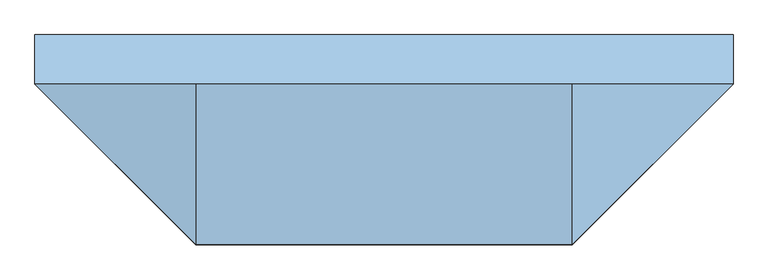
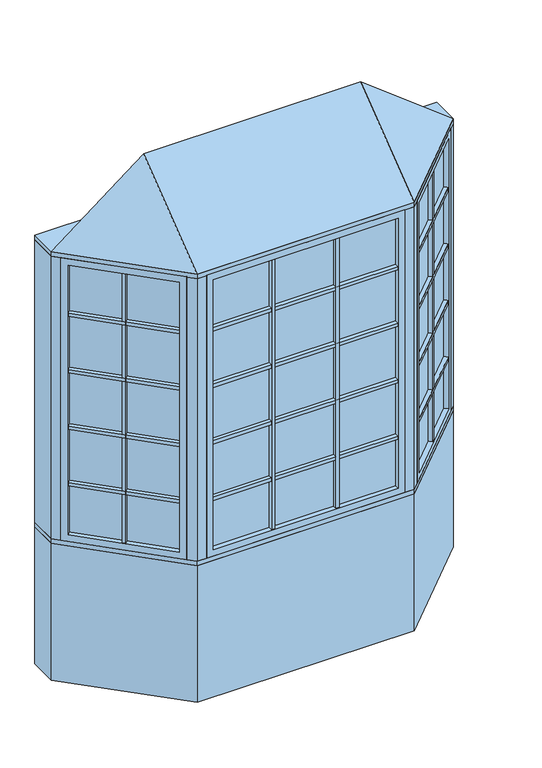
"""IFC4 building model written with IfcOpenShell, lengths in millimetres: window geometry, Pollard_Windows_Tudor Casement Bows and Bays : AML-BAY 45 AFR0616-10-600_GC."""

from ifc_helpers import new_model, si_unit, frame, origin, origin_with_axes, place, context, project, spatial, polyline, outline, extrude, faceted_brep, source, transform, mapped, element, save


def window_cf54c3e9(model_context):
    return source(origin(), model_context, "Body", "SolidModel", [
        extrude(outline(polyline([(639.5114193, -506.9608753), (623.9550701, -491.4045261), (1001.616171, -113.7434252), (1017.1725202, -129.2997743), (639.5114193, -506.9608753)])), frame((0.0, 0.0, 1110.998), z_axis=(0.0, 0.0, 1.0), x_axis=(1.0, 0.0, 0.0)), (0.0, 0.0, 1.0), 18.0),
        extrude(outline(polyline([(620.3629677, -487.8124236), (604.8066185, -472.2560744), (982.4677194, -94.5949735), (998.0240686, -110.1513227), (620.3629677, -487.8124236)])), frame((0.0, 0.0, 1110.998), z_axis=(0.0, 0.0, 1.0), x_axis=(1.0, 0.0, 0.0)), (0.0, 0.0, 1.0), 18.0),
        extrude(outline(polyline([(639.5114193, -506.9608753), (623.9550701, -491.4045261), (1001.616171, -113.7434252), (1017.1725202, -129.2997743), (639.5114193, -506.9608753)])), frame((0.0, 0.0, 1430.998), z_axis=(0.0, 0.0, 1.0), x_axis=(1.0, 0.0, 0.0)), (0.0, 0.0, 1.0), 18.0),
        extrude(outline(polyline([(620.3629677, -487.8124236), (604.8066185, -472.2560744), (982.4677194, -94.5949735), (998.0240686, -110.1513227), (620.3629677, -487.8124236)])), frame((0.0, 0.0, 1430.998), z_axis=(0.0, 0.0, 1.0), x_axis=(1.0, 0.0, 0.0)), (0.0, 0.0, 1.0), 18.0),
        extrude(outline(polyline([(639.5114193, -506.9608753), (623.9550701, -491.4045261), (1001.616171, -113.7434252), (1017.1725202, -129.2997743), (639.5114193, -506.9608753)])), frame((0.0, 0.0, 1750.998), z_axis=(0.0, 0.0, 1.0), x_axis=(1.0, 0.0, 0.0)), (0.0, 0.0, 1.0), 18.0),
        extrude(outline(polyline([(620.3629677, -487.8124236), (604.8066185, -472.2560744), (982.4677194, -94.5949735), (998.0240686, -110.1513227), (620.3629677, -487.8124236)])), frame((0.0, 0.0, 1750.998), z_axis=(0.0, 0.0, 1.0), x_axis=(1.0, 0.0, 0.0)), (0.0, 0.0, 1.0), 18.0),
        extrude(outline(polyline([(639.5114193, -506.9608753), (623.9550701, -491.4045261), (1001.616171, -113.7434252), (1017.1725202, -129.2997743), (639.5114193, -506.9608753)])), frame((0.0, 0.0, 2070.998), z_axis=(0.0, 0.0, 1.0), x_axis=(1.0, 0.0, 0.0)), (0.0, 0.0, 1.0), 18.0),
        extrude(outline(polyline([(620.3629677, -487.8124236), (604.8066185, -472.2560744), (982.4677194, -94.5949735), (998.0240686, -110.1513227), (620.3629677, -487.8124236)])), frame((0.0, 0.0, 2070.998), z_axis=(0.0, 0.0, 1.0), x_axis=(1.0, 0.0, 0.0)), (0.0, 0.0, 1.0), 18.0),
        extrude(outline(polyline([(819.1495816, -296.2100146), (834.7059308, -311.7663638), (821.9780087, -324.4942858), (806.4216595, -308.9379366), (819.1495816, -296.2100146)])), frame((0.0, 0.0, 835.8628), z_axis=(0.0, 0.0, 1.0), x_axis=(1.0, 0.0, 0.0)), (0.0, 0.0, 1.0), 1528.2704),
        extrude(outline(polyline([(815.5574791, -292.6179121), (802.8295571, -305.3458342), (787.2732079, -289.789485), (800.00113, -277.0615629), (815.5574791, -292.6179121)])), frame((0.0, 0.0, 835.8628), z_axis=(0.0, 0.0, 1.0), x_axis=(1.0, 0.0, 0.0)), (0.0, 0.0, 1.0), 1528.2704),
        extrude(outline(polyline([(1010.5964271, -104.763169), (614.974814, -500.3847822), (611.3827115, -496.7926797), (1007.0043247, -101.1710666), (1010.5964271, -104.763169)])), frame((0.0, 0.0, 823.1628), z_axis=(0.0, 0.0, 1.0), x_axis=(1.0, 0.0, 0.0)), (0.0, 0.0, 1.0), 1553.6704),
        faceted_brep([(1001.616171, -113.7434252, 835.8628), (1019.5766833, -131.7039374, 835.8628), (1019.5766833, -131.7039374, 2364.1332), (1001.616171, -113.7434252, 2364.1332), (1007.0043247, -101.1710666, 823.1628), (1010.5964271, -104.763169, 823.1628), (1010.5964271, -104.763169, 2376.8332), (1007.0043247, -101.1710666, 2376.8332), (980.0635563, -92.1908105, 835.8628), (998.0240686, -110.1513227, 835.8628), (998.0240686, -110.1513227, 2364.1332), (980.0635563, -92.1908105, 2364.1332), (1044.9369265, -106.3436941, 799.998), (1005.4237996, -66.8305672, 799.998), (1005.4237996, -66.8305672, 2399.998), (1044.9369265, -106.3436941, 2399.998), (641.9155823, -509.3650383, 2364.1332), (623.9550701, -491.4045261, 2364.1332), (614.974814, -500.3847822, 2376.8332), (611.3827115, -496.7926797, 2376.8332), (620.3629677, -487.8124236, 2364.1332), (602.4024554, -469.8519114, 2364.1332), (577.0422121, -495.2121547, 2399.998), (616.5553391, -534.7252816, 2399.998), (641.9155823, -509.3650383, 835.8628), (623.9550701, -491.4045261, 835.8628), (614.974814, -500.3847822, 823.1628), (611.3827115, -496.7926797, 823.1628), (620.3629677, -487.8124236, 835.8628), (602.4024554, -469.8519114, 835.8628), (577.0422121, -495.2121547, 799.998), (616.5553391, -534.7252816, 799.998)], [[[0, 1, 2, 3]], [[4, 5, 6, 7]], [[8, 9, 10, 11]], [[12, 13, 14, 15]], [[3, 2, 16, 17]], [[7, 6, 18, 19]], [[11, 10, 20, 21]], [[15, 14, 22, 23]], [[17, 16, 24, 25]], [[19, 18, 26, 27]], [[21, 20, 28, 29]], [[23, 22, 30, 31]], [[25, 24, 1, 0]], [[5, 26, 18, 6], [3, 17, 25, 0]], [[27, 26, 5, 4]], [[7, 19, 27, 4], [9, 28, 20, 10]], [[29, 28, 9, 8]], [[13, 30, 22, 14], [11, 21, 29, 8]], [[31, 30, 13, 12]], [[15, 23, 31, 12], [1, 24, 16, 2]]]),
        extrude(outline(polyline([(181.3452, -544.6806207), (181.3452, -566.6806207), (163.3452, -566.6806207), (163.3452, -544.6806207), (181.3452, -544.6806207)])), frame((0.0, 0.0, 835.8628), z_axis=(0.0, 0.0, 1.0), x_axis=(1.0, 0.0, 0.0)), (0.0, 0.0, 1.0), 1528.2704),
        extrude(outline(polyline([(181.3452, -539.6006207), (163.3452, -539.6006207), (163.3452, -517.6006207), (181.3452, -517.6006207), (181.3452, -539.6006207)])), frame((0.0, 0.0, 835.8628), z_axis=(0.0, 0.0, 1.0), x_axis=(1.0, 0.0, 0.0)), (0.0, 0.0, 1.0), 1528.2704),
        extrude(outline(polyline([(-163.3452, -544.6806207), (-163.3452, -566.6806207), (-181.3452, -566.6806207), (-181.3452, -544.6806207), (-163.3452, -544.6806207)])), frame((0.0, 0.0, 835.8628), z_axis=(0.0, 0.0, 1.0), x_axis=(1.0, 0.0, 0.0)), (0.0, 0.0, 1.0), 1528.2704),
        extrude(outline(polyline([(-163.3452, -539.6006207), (-181.3452, -539.6006207), (-181.3452, -517.6006207), (-163.3452, -517.6006207), (-163.3452, -539.6006207)])), frame((0.0, 0.0, 835.8628), z_axis=(0.0, 0.0, 1.0), x_axis=(1.0, 0.0, 0.0)), (0.0, 0.0, 1.0), 1528.2704),
        extrude(outline(polyline([(-495.3352, -566.6806207), (-495.3352, -544.6806207), (495.3352, -544.6806207), (495.3352, -566.6806207), (-495.3352, -566.6806207)])), frame((0.0, 0.0, 1110.998), z_axis=(0.0, 0.0, 1.0), x_axis=(1.0, 0.0, 0.0)), (0.0, 0.0, 1.0), 18.0),
        extrude(outline(polyline([(-495.3352, -539.6006207), (-495.3352, -517.6006207), (495.3352, -517.6006207), (495.3352, -539.6006207), (-495.3352, -539.6006207)])), frame((0.0, 0.0, 1110.998), z_axis=(0.0, 0.0, 1.0), x_axis=(1.0, 0.0, 0.0)), (0.0, 0.0, 1.0), 18.0),
        extrude(outline(polyline([(-495.3352, -566.6806207), (-495.3352, -544.6806207), (495.3352, -544.6806207), (495.3352, -566.6806207), (-495.3352, -566.6806207)])), frame((0.0, 0.0, 1430.998), z_axis=(0.0, 0.0, 1.0), x_axis=(1.0, 0.0, 0.0)), (0.0, 0.0, 1.0), 18.0),
        extrude(outline(polyline([(-495.3352, -539.6006207), (-495.3352, -517.6006207), (495.3352, -517.6006207), (495.3352, -539.6006207), (-495.3352, -539.6006207)])), frame((0.0, 0.0, 1430.998), z_axis=(0.0, 0.0, 1.0), x_axis=(1.0, 0.0, 0.0)), (0.0, 0.0, 1.0), 18.0),
        extrude(outline(polyline([(-495.3352, -566.6806207), (-495.3352, -544.6806207), (495.3352, -544.6806207), (495.3352, -566.6806207), (-495.3352, -566.6806207)])), frame((0.0, 0.0, 1750.998), z_axis=(0.0, 0.0, 1.0), x_axis=(1.0, 0.0, 0.0)), (0.0, 0.0, 1.0), 18.0),
        extrude(outline(polyline([(-495.3352, -539.6006207), (-495.3352, -517.6006207), (495.3352, -517.6006207), (495.3352, -539.6006207), (-495.3352, -539.6006207)])), frame((0.0, 0.0, 1750.998), z_axis=(0.0, 0.0, 1.0), x_axis=(1.0, 0.0, 0.0)), (0.0, 0.0, 1.0), 18.0),
        extrude(outline(polyline([(-1017.1725202, -129.2997743), (-1001.616171, -113.7434252), (-623.9550701, -491.4045261), (-639.5114193, -506.9608753), (-1017.1725202, -129.2997743)])), frame((0.0, 0.0, 1110.998), z_axis=(0.0, 0.0, 1.0), x_axis=(1.0, 0.0, 0.0)), (0.0, 0.0, 1.0), 18.0),
        extrude(outline(polyline([(-998.0240686, -110.1513227), (-982.4677194, -94.5949735), (-604.8066185, -472.2560744), (-620.3629677, -487.8124236), (-998.0240686, -110.1513227)])), frame((0.0, 0.0, 1110.998), z_axis=(0.0, 0.0, 1.0), x_axis=(1.0, 0.0, 0.0)), (0.0, 0.0, 1.0), 18.0),
        extrude(outline(polyline([(-1017.1725202, -129.2997743), (-1001.616171, -113.7434252), (-623.9550701, -491.4045261), (-639.5114193, -506.9608753), (-1017.1725202, -129.2997743)])), frame((0.0, 0.0, 1430.998), z_axis=(0.0, 0.0, 1.0), x_axis=(1.0, 0.0, 0.0)), (0.0, 0.0, 1.0), 18.0),
        extrude(outline(polyline([(-998.0240686, -110.1513227), (-982.4677194, -94.5949735), (-604.8066185, -472.2560744), (-620.3629677, -487.8124236), (-998.0240686, -110.1513227)])), frame((0.0, 0.0, 1430.998), z_axis=(0.0, 0.0, 1.0), x_axis=(1.0, 0.0, 0.0)), (0.0, 0.0, 1.0), 18.0),
        extrude(outline(polyline([(-1017.1725202, -129.2997743), (-1001.616171, -113.7434252), (-623.9550701, -491.4045261), (-639.5114193, -506.9608753), (-1017.1725202, -129.2997743)])), frame((0.0, 0.0, 1750.998), z_axis=(0.0, 0.0, 1.0), x_axis=(1.0, 0.0, 0.0)), (0.0, 0.0, 1.0), 18.0),
        extrude(outline(polyline([(-998.0240686, -110.1513227), (-982.4677194, -94.5949735), (-604.8066185, -472.2560744), (-620.3629677, -487.8124236), (-998.0240686, -110.1513227)])), frame((0.0, 0.0, 1750.998), z_axis=(0.0, 0.0, 1.0), x_axis=(1.0, 0.0, 0.0)), (0.0, 0.0, 1.0), 18.0),
        extrude(outline(polyline([(-1017.1725202, -129.2997743), (-1001.616171, -113.7434252), (-623.9550701, -491.4045261), (-639.5114193, -506.9608753), (-1017.1725202, -129.2997743)])), frame((0.0, 0.0, 2070.998), z_axis=(0.0, 0.0, 1.0), x_axis=(1.0, 0.0, 0.0)), (0.0, 0.0, 1.0), 18.0),
        extrude(outline(polyline([(-998.0240686, -110.1513227), (-982.4677194, -94.5949735), (-604.8066185, -472.2560744), (-620.3629677, -487.8124236), (-998.0240686, -110.1513227)])), frame((0.0, 0.0, 2070.998), z_axis=(0.0, 0.0, 1.0), x_axis=(1.0, 0.0, 0.0)), (0.0, 0.0, 1.0), 18.0),
        extrude(outline(polyline([(-495.3352, -566.6806207), (-495.3352, -544.6806207), (495.3352, -544.6806207), (495.3352, -566.6806207), (-495.3352, -566.6806207)])), frame((0.0, 0.0, 2070.998), z_axis=(0.0, 0.0, 1.0), x_axis=(1.0, 0.0, 0.0)), (0.0, 0.0, 1.0), 18.0),
        extrude(outline(polyline([(-495.3352, -539.6006207), (-495.3352, -517.6006207), (495.3352, -517.6006207), (495.3352, -539.6006207), (-495.3352, -539.6006207)])), frame((0.0, 0.0, 2070.998), z_axis=(0.0, 0.0, 1.0), x_axis=(1.0, 0.0, 0.0)), (0.0, 0.0, 1.0), 18.0),
        extrude(outline(polyline([(-806.4216595, -308.9379366), (-821.9780087, -324.4942858), (-834.7059308, -311.7663638), (-819.1495816, -296.2100146), (-806.4216595, -308.9379366)])), frame((0.0, 0.0, 835.8628), z_axis=(0.0, 0.0, 1.0), x_axis=(1.0, 0.0, 0.0)), (0.0, 0.0, 1.0), 1528.2704),
        extrude(outline(polyline([(-802.8295571, -305.3458342), (-815.5574791, -292.6179121), (-800.00113, -277.0615629), (-787.2732079, -289.789485), (-802.8295571, -305.3458342)])), frame((0.0, 0.0, 835.8628), z_axis=(0.0, 0.0, 1.0), x_axis=(1.0, 0.0, 0.0)), (0.0, 0.0, 1.0), 1528.2704),
        extrude(outline(polyline([(-614.974814, -500.3847822), (-1010.5964271, -104.763169), (-1007.0043247, -101.1710666), (-611.3827115, -496.7926797), (-614.974814, -500.3847822)])), frame((0.0, 0.0, 823.1628), z_axis=(0.0, 0.0, 1.0), x_axis=(1.0, 0.0, 0.0)), (0.0, 0.0, 1.0), 1553.6704),
        faceted_brep([(-620.3629677, -487.8124236, 2364.1332), (-602.4024554, -469.8519114, 2364.1332), (-602.4024554, -469.8519114, 835.8628), (-620.3629677, -487.8124236, 835.8628), (-614.974814, -500.3847822, 2376.8332), (-611.3827115, -496.7926797, 2376.8332), (-611.3827115, -496.7926797, 823.1628), (-614.974814, -500.3847822, 823.1628), (-641.9155823, -509.3650383, 2364.1332), (-623.9550701, -491.4045261, 2364.1332), (-623.9550701, -491.4045261, 835.8628), (-641.9155823, -509.3650383, 835.8628), (-577.0422121, -495.2121547, 2399.998), (-616.5553391, -534.7252816, 2399.998), (-616.5553391, -534.7252816, 799.998), (-577.0422121, -495.2121547, 799.998), (-980.0635563, -92.1908105, 835.8628), (-998.0240686, -110.1513227, 835.8628), (-1007.0043247, -101.1710666, 823.1628), (-1010.5964271, -104.763169, 823.1628), (-1001.616171, -113.7434252, 835.8628), (-1019.5766833, -131.7039374, 835.8628), (-1044.9369265, -106.3436941, 799.998), (-1005.4237996, -66.8305672, 799.998), (-980.0635563, -92.1908105, 2364.1332), (-998.0240686, -110.1513227, 2364.1332), (-1007.0043247, -101.1710666, 2376.8332), (-1010.5964271, -104.763169, 2376.8332), (-1001.616171, -113.7434252, 2364.1332), (-1019.5766833, -131.7039374, 2364.1332), (-1044.9369265, -106.3436941, 2399.998), (-1005.4237996, -66.8305672, 2399.998)], [[[0, 1, 2, 3]], [[4, 5, 6, 7]], [[8, 9, 10, 11]], [[12, 13, 14, 15]], [[3, 2, 16, 17]], [[7, 6, 18, 19]], [[11, 10, 20, 21]], [[15, 14, 22, 23]], [[17, 16, 24, 25]], [[19, 18, 26, 27]], [[21, 20, 28, 29]], [[23, 22, 30, 31]], [[15, 23, 31, 12], [1, 24, 16, 2]], [[25, 24, 1, 0]], [[5, 26, 18, 6], [3, 17, 25, 0]], [[27, 26, 5, 4]], [[7, 19, 27, 4], [9, 28, 20, 10]], [[29, 28, 9, 8]], [[13, 30, 22, 14], [11, 21, 29, 8]], [[31, 30, 13, 12]]]),
        extrude(outline(polyline([(508.0352, -544.6806207), (-508.0352, -544.6806207), (-508.0352, -539.6006207), (508.0352, -539.6006207), (508.0352, -544.6806207)])), frame((0.0, 0.0, 823.1628), z_axis=(0.0, 0.0, 1.0), x_axis=(1.0, 0.0, 0.0)), (0.0, 0.0, 1.0), 1553.6704),
        faceted_brep([(495.3352, -544.6806207, 835.8628), (495.3352, -570.0806207, 835.8628), (495.3352, -570.0806207, 2364.1332), (495.3352, -544.6806207, 2364.1332), (508.0352, -539.6006207, 823.1628), (508.0352, -544.6806207, 823.1628), (508.0352, -544.6806207, 2376.8332), (508.0352, -539.6006207, 2376.8332), (495.3352, -514.2006207, 835.8628), (495.3352, -539.6006207, 835.8628), (495.3352, -539.6006207, 2364.1332), (495.3352, -514.2006207, 2364.1332), (531.2, -570.0806207, 799.998), (531.2, -514.2006207, 799.998), (531.2, -514.2006207, 2399.998), (531.2, -570.0806207, 2399.998), (-495.3352, -570.0806207, 2364.1332), (-495.3352, -544.6806207, 2364.1332), (-508.0352, -544.6806207, 2376.8332), (-508.0352, -539.6006207, 2376.8332), (-495.3352, -539.6006207, 2364.1332), (-495.3352, -514.2006207, 2364.1332), (-531.2, -514.2006207, 2399.998), (-531.2, -570.0806207, 2399.998), (-495.3352, -570.0806207, 835.8628), (-495.3352, -544.6806207, 835.8628), (-508.0352, -544.6806207, 823.1628), (-508.0352, -539.6006207, 823.1628), (-495.3352, -539.6006207, 835.8628), (-495.3352, -514.2006207, 835.8628), (-531.2, -514.2006207, 799.998), (-531.2, -570.0806207, 799.998)], [[[0, 1, 2, 3]], [[4, 5, 6, 7]], [[8, 9, 10, 11]], [[12, 13, 14, 15]], [[3, 2, 16, 17]], [[7, 6, 18, 19]], [[11, 10, 20, 21]], [[15, 14, 22, 23]], [[17, 16, 24, 25]], [[19, 18, 26, 27]], [[21, 20, 28, 29]], [[23, 22, 30, 31]], [[15, 23, 31, 12], [1, 24, 16, 2]], [[25, 24, 1, 0]], [[5, 26, 18, 6], [3, 17, 25, 0]], [[27, 26, 5, 4]], [[7, 19, 27, 4], [9, 28, 20, 10]], [[29, 28, 9, 8]], [[13, 30, 22, 14], [11, 21, 29, 8]], [[31, 30, 13, 12]]]),
        faceted_brep([(1076.5, -74.7806207, 2425.398), (581.2, -570.0806207, 2425.398), (-581.2, -570.0806207, 2425.398), (-1076.5, -74.7806207, 2425.398), (-581.2, -74.7806207, 2806.398), (581.2, -74.7806207, 2806.398)], [[[0, 1, 2, 3]], [[3, 2, 4]], [[2, 1, 5, 4]], [[1, 0, 5]], [[0, 3, 4, 5]]]),
        extrude(outline(polyline([(-1076.5, 77.6193793), (1076.5, 77.6193793), (1076.5, -74.7806207), (581.2, -570.0806207), (-581.2, -570.0806207), (-1076.5, -74.7806207), (-1076.5, 77.6193793)])), frame((0.0, 0.0, 2399.998), z_axis=(0.0, 0.0, 1.0), x_axis=(1.0, 0.0, 0.0)), (0.0, 0.0, 1.0), 25.4),
        extrude(outline(polyline([(-1076.5, -74.7806207), (-1076.5, 77.6193793), (-1013.3738531, 77.6193793), (-1013.3738531, -74.7806207), (-1044.9369265, -106.3436941), (-1076.5, -74.7806207)])), frame((0.0, 0.0, 799.998), z_axis=(0.0, 0.0, 1.0), x_axis=(1.0, 0.0, 0.0)), (0.0, 0.0, 1.0), 1600.0),
        extrude(outline(polyline([(1076.5, 77.6193793), (1076.5, -74.7806207), (1044.9369265, -106.3436941), (1013.3738531, -74.7806207), (1013.3738531, 77.6193793), (1076.5, 77.6193793)])), frame((0.0, 0.0, 799.998), z_axis=(0.0, 0.0, 1.0), x_axis=(1.0, 0.0, 0.0)), (0.0, 0.0, 1.0), 1600.0),
        extrude(outline(polyline([(581.2, -570.0806207), (531.2, -570.0806207), (531.2, -520.0806207), (560.4893219, -520.0806207), (581.2, -499.3699425), (616.5553391, -534.7252816), (581.2, -570.0806207)])), frame((0.0, 0.0, 799.998), z_axis=(0.0, 0.0, 1.0), x_axis=(1.0, 0.0, 0.0)), (0.0, 0.0, 1.0), 1600.0),
        extrude(outline(polyline([(-581.2, -570.0806207), (-616.5553391, -534.7252816), (-581.2, -499.3699425), (-560.4893219, -520.0806207), (-531.2, -520.0806207), (-531.2, -570.0806207), (-581.2, -570.0806207)])), frame((0.0, 0.0, 799.998), z_axis=(0.0, 0.0, 1.0), x_axis=(1.0, 0.0, 0.0)), (0.0, 0.0, 1.0), 1600.0),
        extrude(outline(polyline([(-581.2, -570.0806207), (-1076.5, -74.7806207), (-1076.5, 77.6193793), (-1013.3738531, 77.6193793), (-518.0738531, -417.6806207), (518.0738531, -417.6806207), (1013.3738531, 77.6193793), (1076.5, 77.6193793), (1076.5, -74.7806207), (581.2, -570.0806207), (-581.2, -570.0806207)])), frame((0.0, 0.0, 774.598), z_axis=(0.0, 0.0, 1.0), x_axis=(1.0, 0.0, 0.0)), (0.0, 0.0, 1.0), 25.4),
        extrude(outline(polyline([(-1076.5, -74.7806207), (-1076.5, 77.6193793), (-1013.3738531, 77.6193793), (-518.0738531, -417.6806207), (518.0738531, -417.6806207), (1013.3738531, 77.6193793), (1076.5, 77.6193793), (1076.5, -74.7806207), (581.2, -570.0806207), (-581.2, -570.0806207), (-1076.5, -74.7806207)])), origin_with_axes(), (0.0, 0.0, 1.0), 774.598),
    ])


if __name__ == "__main__":
    model = new_model("IFC4")
    model_context = context("Model", 3, world=origin())
    ifc_project = project(units=[si_unit("LENGTHUNIT", "METRE", prefix="MILLI")], contexts=[model_context])
    site = spatial("IfcSite", under=ifc_project)
    building = spatial("IfcBuilding", under=site)
    placement = place(None, origin())
    window_shape = window_cf54c3e9(model_context)
    element("IfcWindow", 1, ObjectType="Pollard_Windows_Tudor Casement Bows and Bays : AML-BAY 45 AFR0616-10-600_GC", at=placement, inside=building, context=model_context, shape_type="MappedRepresentation", body=[
        mapped(window_shape, transform((0.0, 0.0, 0.0), x_axis=(1.0, 0.0, 0.0), y_axis=(0.0, 1.0, 0.0), z_axis=(0.0, 0.0, 1.0))),
    ])
    save(model, "model.ifc")
